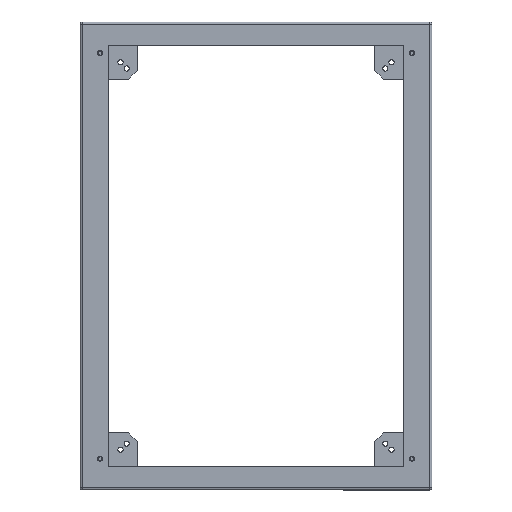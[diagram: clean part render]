
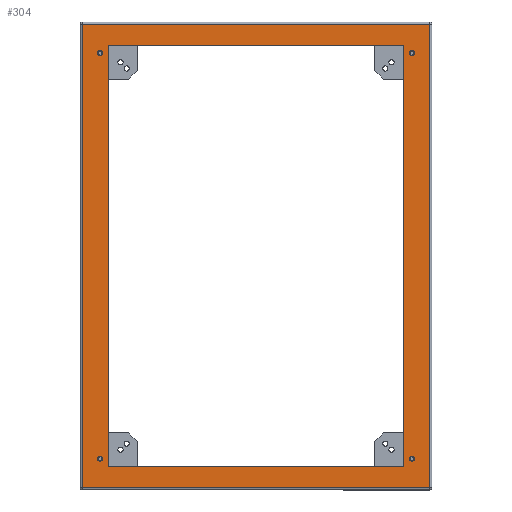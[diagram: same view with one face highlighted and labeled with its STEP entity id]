
A CAD part, top view. The second image highlights one B-rep face of the part: STEP entity #304.
In plain terms, the highlighted planar face has unit normal (0, 0, 1).
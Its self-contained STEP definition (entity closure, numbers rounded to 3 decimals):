
#304=ADVANCED_FACE('',(#1182,#1184,#1186,#1188,#1190,#1192),#1194,.T.);
#1182=FACE_BOUND('',#1183,.T.);
#1183=EDGE_LOOP('',(#2115,#2116,#2117,#2118));
#1184=FACE_BOUND('',#1185,.T.);
#1185=EDGE_LOOP('',(#2119,#2120,#2121,#2122));
#1186=FACE_BOUND('',#1187,.T.);
#1187=EDGE_LOOP('',(#2123));
#1188=FACE_BOUND('',#1189,.T.);
#1189=EDGE_LOOP('',(#2124));
#1190=FACE_BOUND('',#1191,.T.);
#1191=EDGE_LOOP('',(#2125));
#1192=FACE_BOUND('',#1193,.T.);
#1193=EDGE_LOOP('',(#2126));
#1194=PLANE('',#1195);
#1195=AXIS2_PLACEMENT_3D('',#1196,#1197,#1198);
#1196=CARTESIAN_POINT('',(0.,0.,-49.));
#1197=DIRECTION('',(0.,0.,1.));
#1198=DIRECTION('',(0.,1.,0.));
#2115=ORIENTED_EDGE('',*,*,#2465,.T.);
#2116=ORIENTED_EDGE('',*,*,#2461,.T.);
#2117=ORIENTED_EDGE('',*,*,#2456,.T.);
#2118=ORIENTED_EDGE('',*,*,#2469,.T.);
#2119=ORIENTED_EDGE('',*,*,#2447,.T.);
#2120=ORIENTED_EDGE('',*,*,#2454,.T.);
#2121=ORIENTED_EDGE('',*,*,#2452,.T.);
#2122=ORIENTED_EDGE('',*,*,#2450,.T.);
#2123=ORIENTED_EDGE('',*,*,#2446,.T.);
#2124=ORIENTED_EDGE('',*,*,#2445,.T.);
#2125=ORIENTED_EDGE('',*,*,#2444,.T.);
#2126=ORIENTED_EDGE('',*,*,#2443,.T.);
#2443=EDGE_CURVE('',#2871,#2871,#2872,.F.);
#2444=EDGE_CURVE('',#2873,#2873,#2874,.F.);
#2445=EDGE_CURVE('',#2875,#2875,#2876,.F.);
#2446=EDGE_CURVE('',#2877,#2877,#2878,.F.);
#2447=EDGE_CURVE('',#2879,#2880,#2881,.F.);
#2450=EDGE_CURVE('',#2884,#2879,#2885,.F.);
#2452=EDGE_CURVE('',#2887,#2884,#2888,.F.);
#2454=EDGE_CURVE('',#2880,#2887,#2890,.F.);
#2456=EDGE_CURVE('',#2893,#2891,#2894,.T.);
#2461=EDGE_CURVE('',#2899,#2893,#2900,.T.);
#2465=EDGE_CURVE('',#2904,#2899,#2905,.T.);
#2469=EDGE_CURVE('',#2891,#2904,#2909,.T.);
#2871=VERTEX_POINT('',#3877);
#2872=CIRCLE('',#3878,5.5);
#2873=VERTEX_POINT('',#3882);
#2874=CIRCLE('',#3883,5.5);
#2875=VERTEX_POINT('',#3887);
#2876=CIRCLE('',#3888,5.5);
#2877=VERTEX_POINT('',#3892);
#2878=CIRCLE('',#3893,5.5);
#2879=VERTEX_POINT('',#3897);
#2880=VERTEX_POINT('',#3898);
#2881=LINE('',#3899,#3900);
#2884=VERTEX_POINT('',#3908);
#2885=LINE('',#3909,#3910);
#2887=VERTEX_POINT('',#3915);
#2888=LINE('',#3916,#3917);
#2890=LINE('',#3922,#3923);
#2891=VERTEX_POINT('',#3925);
#2893=VERTEX_POINT('',#3930);
#2894=LINE('',#3931,#3932);
#2899=VERTEX_POINT('',#3950);
#2900=LINE('',#3951,#3952);
#2904=VERTEX_POINT('',#3966);
#2905=LINE('',#3967,#3968);
#2909=LINE('',#3982,#3983);
#3877=CARTESIAN_POINT('',(-683.5,24.,-49.));
#3878=AXIS2_PLACEMENT_3D('',#3879,#3880,#3881);
#3879=CARTESIAN_POINT('',(-683.5,18.5,-49.));
#3880=DIRECTION('',(0.,0.,1.));
#3881=DIRECTION('',(0.,1.,0.));
#3882=CARTESIAN_POINT('',(-18.5,24.,-49.));
#3883=AXIS2_PLACEMENT_3D('',#3884,#3885,#3886);
#3884=CARTESIAN_POINT('',(-18.5,18.5,-49.));
#3885=DIRECTION('',(0.,0.,1.));
#3886=DIRECTION('',(0.,1.,0.));
#3887=CARTESIAN_POINT('',(-18.5,889.,-49.));
#3888=AXIS2_PLACEMENT_3D('',#3889,#3890,#3891);
#3889=CARTESIAN_POINT('',(-18.5,883.5,-49.));
#3890=DIRECTION('',(0.,0.,1.));
#3891=DIRECTION('',(0.,1.,0.));
#3892=CARTESIAN_POINT('',(-683.5,889.,-49.));
#3893=AXIS2_PLACEMENT_3D('',#3894,#3895,#3896);
#3894=CARTESIAN_POINT('',(-683.5,883.5,-49.));
#3895=DIRECTION('',(0.,0.,1.));
#3896=DIRECTION('',(0.,1.,0.));
#3897=CARTESIAN_POINT('',(-666.,2.,-49.));
#3898=CARTESIAN_POINT('',(-666.,900.,-49.));
#3899=CARTESIAN_POINT('',(-666.,900.,-49.));
#3900=VECTOR('',#3901,1.);
#3901=DIRECTION('',(0.,-1.,0.));
#3908=CARTESIAN_POINT('',(-36.,2.,-49.));
#3909=CARTESIAN_POINT('',(-666.,2.,-49.));
#3910=VECTOR('',#3911,1.);
#3911=DIRECTION('',(1.,0.,0.));
#3915=CARTESIAN_POINT('',(-36.,900.,-49.));
#3916=CARTESIAN_POINT('',(-36.,2.,-49.));
#3917=VECTOR('',#3918,1.);
#3918=DIRECTION('',(0.,1.,0.));
#3922=CARTESIAN_POINT('',(-36.,900.,-49.));
#3923=VECTOR('',#3924,1.);
#3924=DIRECTION('',(-1.,0.,0.));
#3925=CARTESIAN_POINT('',(19.4,945.4,-49.));
#3930=CARTESIAN_POINT('',(19.4,-43.4,-49.));
#3931=CARTESIAN_POINT('',(19.4,-43.4,-49.));
#3932=VECTOR('',#3933,1.);
#3933=DIRECTION('',(0.,1.,0.));
#3950=CARTESIAN_POINT('',(-721.4,-43.4,-49.));
#3951=CARTESIAN_POINT('',(-721.4,-43.4,-49.));
#3952=VECTOR('',#3953,1.);
#3953=DIRECTION('',(1.,0.,0.));
#3966=CARTESIAN_POINT('',(-721.4,945.4,-49.));
#3967=CARTESIAN_POINT('',(-721.4,945.4,-49.));
#3968=VECTOR('',#3969,1.);
#3969=DIRECTION('',(0.,-1.,0.));
#3982=CARTESIAN_POINT('',(19.4,945.4,-49.));
#3983=VECTOR('',#3984,1.);
#3984=DIRECTION('',(-1.,0.,0.));
